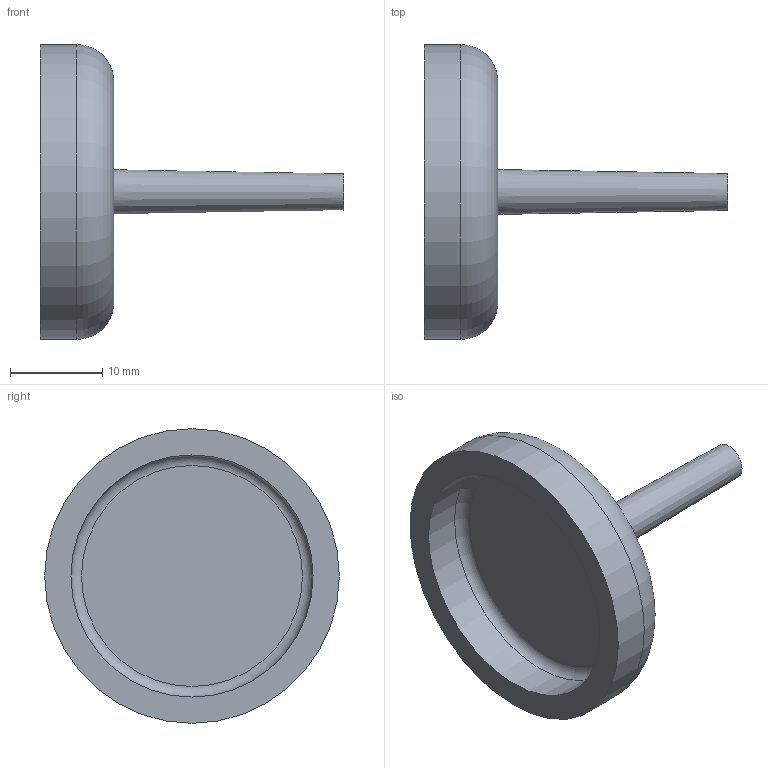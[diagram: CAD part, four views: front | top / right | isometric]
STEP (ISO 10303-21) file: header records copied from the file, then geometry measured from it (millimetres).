
FILE_DESCRIPTION(/* description */ (''),/* implementation_level */ '2;1');
FILE_NAME(/* name */ 'Z:\Geberit\Export\NewStep\Abschlussdeckel_Ipart\stp\379812.stp',/* time_stamp */ '2014-04-03T17:36:12+02:00',/* author */ ('Bründl'),/* organization */ (''),/* preprocessor_version */ 'ST-DEVELOPER v15.2',/* originating_system */ 'Autodesk Inventor 2014',/* authorisation */ '');
FILE_SCHEMA (('AUTOMOTIVE_DESIGN { 1 0 10303 214 3 1 1 }'));
Length unit declared in the file: millimetre
Products named in the file (1): 379812
Bounding box: 33 x 32 x 32 mm (x, y, z)
Volume: 3721 mm3; surface area: 2959.6 mm2
Topology: 1 solids, 1 shells, 9 faces, 13 edges, 8 vertices
Faces by surface type: plane 4, cylinder 2, torus 2, cone 1
Full cylindrical faces by diameter (mm): 26.3 x1, 32 x1
Entity records: 204 total; most frequent: DIRECTION 36, CARTESIAN_POINT 26, AXIS2_PLACEMENT_3D 18, EDGE_LOOP 16, ORIENTED_EDGE 16, STYLED_ITEM 10, ADVANCED_FACE 9, FACE_BOUND 8
